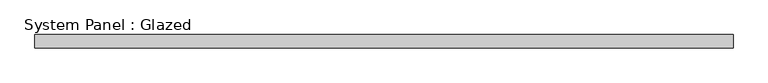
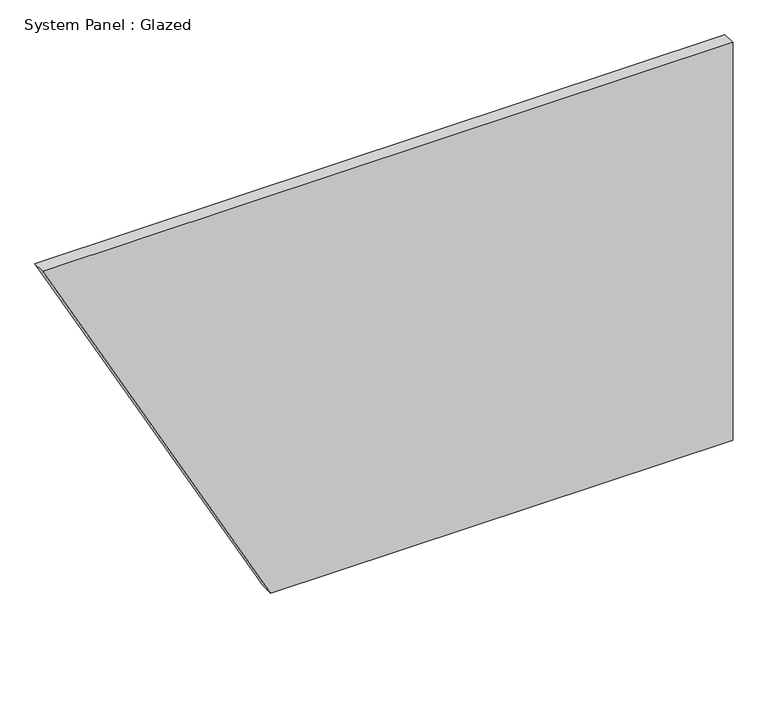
"""IFC4 building model written with IfcOpenShell, lengths in millimetres: plate geometry, System Panel : Glazed."""

import ifcopenshell
import ifcopenshell.guid

model = None  # the IFC model being written
_history = None  # IfcOwnerHistory: only IFC2X3 demands one
_inside = {}  # id of a spatial element -> (the spatial element, [elements in it])
_under = {}  # id of a project, library or spatial element -> (it, [spatial elements below it])
_declared = {}  # id of a project -> (the project, [libraries it declares])
_typed = {}  # id of a type object -> (the type object, [elements of that type])
_made_of = {}  # id of a material, layer set ... -> (it, [elements and type objects made of it])


def new_model(schema):
    """Start an empty IFC model of exactly this schema.

    Asked for "IFC4X3", IfcOpenShell would pick the latest addendum, in which some entities
    have other attributes; the version numbers below select the first issue.
    IFC2X3 requires an IfcOwnerHistory on every rooted entity: one is made here for all.
    """
    global model, _history
    if schema == "IFC4X3":
        model = ifcopenshell.file(schema_version=(4, 3, 0, 0))
    else:
        model = ifcopenshell.file(schema=schema)
    _inside.clear()
    _under.clear()
    _declared.clear()
    _typed.clear()
    _made_of.clear()
    _history = None
    if model.schema == "IFC2X3":
        org = make("IfcOrganization", Name="unknown")
        user = make(
            "IfcPersonAndOrganization",
            ThePerson=make("IfcPerson", FamilyName="unknown"),
            TheOrganization=org,
        )
        app = make(
            "IfcApplication",
            ApplicationDeveloper=org,
            Version="unknown",
            ApplicationFullName="unknown",
            ApplicationIdentifier="unknown",
        )
        _history = make(
            "IfcOwnerHistory",
            OwningUser=user,
            OwningApplication=app,
            ChangeAction="ADDED",
            CreationDate=0,
        )
    return model


def make(cls, **values):
    """One entity of the class cls with the attributes given. An attribute that is None is left unset."""
    return model.create_entity(
        cls, **{name: value for name, value in values.items() if value is not None}
    )


def rooted(cls, **values):
    """An entity with a GlobalId (a new one), such as an element, a storey or a relation."""
    return make(cls, GlobalId=ifcopenshell.guid.new(), OwnerHistory=_history, **values)


def si_unit(unit_type, name, prefix=None):
    """IfcSIUnit, for example si_unit("LENGTHUNIT", "METRE", prefix="MILLI")."""
    return make("IfcSIUnit", UnitType=unit_type, Prefix=prefix, Name=name)


def assignment(units):
    """IfcUnitAssignment: the units of a project."""
    return None if units is None else make("IfcUnitAssignment", Units=units)


def point(xyz):
    """IfcCartesianPoint."""
    return None if xyz is None else make("IfcCartesianPoint", Coordinates=xyz)


def direction(xyz):
    """IfcDirection."""
    return None if xyz is None else make("IfcDirection", DirectionRatios=xyz)


def frame(location, z_axis=None, x_axis=None):
    """IfcAxis2Placement3D, a coordinate frame: its origin and axes. An axis left out is left unset."""
    return make(
        "IfcAxis2Placement3D",
        Location=point(location),
        Axis=direction(z_axis),
        RefDirection=direction(x_axis),
    )


def origin():
    """The frame at (0, 0, 0) with its axes left unset."""
    return frame((0.0, 0.0, 0.0))


def place(relative_to, where):
    """IfcLocalPlacement: puts the frame where relative to a parent placement (None: the world)."""
    return make(
        "IfcLocalPlacement", PlacementRelTo=relative_to, RelativePlacement=where
    )


def context(
    kind, dimensions, precision=None, world=None, true_north=None, identifier=None
):
    """IfcGeometricRepresentationContext, for example the 3D "Model" context."""
    return make(
        "IfcGeometricRepresentationContext",
        ContextIdentifier=identifier,
        ContextType=kind,
        CoordinateSpaceDimension=dimensions,
        Precision=precision,
        WorldCoordinateSystem=world,
        TrueNorth=true_north,
    )


def project(units=None, contexts=None):
    """IfcProject with its units and contexts."""
    return rooted(
        "IfcProject",
        Name="project",
        RepresentationContexts=contexts,
        UnitsInContext=assignment(units),
    )


def spatial(cls, under=None, at=None, **own):
    """A site, building, storey or space (cls), placed at a placement, below another one or the project."""
    s = rooted(cls, ObjectPlacement=at, **own)
    if under is not None:
        _under.setdefault(under.id(), (under, []))[1].append(s)
    return s


def polyline(points):
    """IfcPolyline through the points."""
    return make("IfcPolyline", Points=[point(p) for p in points])


def outline(outer, holes=None, kind="AREA"):
    """IfcArbitraryClosedProfileDef: a profile drawn as a closed curve; with holes, ...WithVoids."""
    if holes is None:
        return make("IfcArbitraryClosedProfileDef", ProfileType=kind, OuterCurve=outer)
    return make(
        "IfcArbitraryProfileDefWithVoids",
        ProfileType=kind,
        OuterCurve=outer,
        InnerCurves=holes,
    )


def extrude(swept, where, along, depth):
    """IfcExtrudedAreaSolid: the profile swept, set in the frame where, extruded along a direction by depth."""
    return make(
        "IfcExtrudedAreaSolid",
        SweptArea=swept,
        Position=where,
        ExtrudedDirection=direction(along),
        Depth=depth,
    )


def shape(context_of_items, identifier, shape_type, items):
    """IfcShapeRepresentation: the items that make up one representation, for example the "Body"."""
    return make(
        "IfcShapeRepresentation",
        ContextOfItems=context_of_items,
        RepresentationIdentifier=identifier,
        RepresentationType=shape_type,
        Items=items,
    )


def source(mapping_origin, context_of_items, identifier, shape_type, items):
    """IfcRepresentationMap: a shape defined once, which mapped items show again and again."""
    return make(
        "IfcRepresentationMap",
        MappingOrigin=mapping_origin,
        MappedRepresentation=shape(context_of_items, identifier, shape_type, items),
    )


def transform(
    local_origin,
    x_axis=None,
    y_axis=None,
    z_axis=None,
    scale=None,
    scale2=None,
    scale3=None,
    uniform=True,
):
    """IfcCartesianTransformationOperator3D, or its non-uniform kind. x_axis, y_axis, z_axis: its Axis1, 2, 3."""
    if uniform:
        return make(
            "IfcCartesianTransformationOperator3D",
            Axis1=direction(x_axis),
            Axis2=direction(y_axis),
            LocalOrigin=point(local_origin),
            Scale=scale,
            Axis3=direction(z_axis),
        )
    return make(
        "IfcCartesianTransformationOperator3DnonUniform",
        Axis1=direction(x_axis),
        Axis2=direction(y_axis),
        LocalOrigin=point(local_origin),
        Scale=scale,
        Axis3=direction(z_axis),
        Scale2=scale2,
        Scale3=scale3,
    )


def mapped(mapping_source, mapping_target):
    """IfcMappedItem: shows the shape of a source again, moved by a transform."""
    return make(
        "IfcMappedItem", MappingSource=mapping_source, MappingTarget=mapping_target
    )


def made_of(thing, what):
    """Note that an element or type object is made of a material, layer set ...; save() writes the relation."""
    if what is not None:
        _made_of.setdefault(what.id(), (what, []))[1].append(thing)
    return thing


def element(
    cls,
    number,
    at=None,
    inside=None,
    cuts=None,
    type_object=None,
    material=None,
    context=None,
    identifier="Body",
    shape_type=None,
    held_by="IfcProductDefinitionShape",
    body=None,
    shapes=None,
    **own,
):
    """One element of the class cls, such as IfcWall. Its Tag is "e" and its number.

    at: its placement. inside: the storey or other place that contains it. cuts: it is an
    opening in that element (IfcRelVoidsElement). A single representation is given by context,
    identifier, shape_type and body (its items); several are given by shapes. held_by: the class
    of the entity that holds the representations. save() writes the other relations.
    """
    e = rooted(cls, Tag="e%d" % number, ObjectPlacement=at, **own)
    if body is not None:
        shapes = [shape(context, identifier, shape_type, body)]
    if shapes is not None:
        e.Representation = make(held_by, Representations=shapes)
    if inside is not None:
        _inside.setdefault(inside.id(), (inside, []))[1].append(e)
    if cuts is not None:
        rooted(
            "IfcRelVoidsElement", RelatingBuildingElement=cuts, RelatedOpeningElement=e
        )
    if type_object is not None:
        _typed.setdefault(type_object.id(), (type_object, []))[1].append(e)
    return made_of(e, material)


def aggregate(whole, parts):
    """IfcRelAggregates: a whole, such as a stair, and the parts it consists of."""
    return rooted("IfcRelAggregates", RelatingObject=whole, RelatedObjects=parts)


def save(model, path):
    """Write the relations noted so far, then the file.

    IfcRelAggregates (storeys below a building ...), IfcRelContainedInSpatialStructure (elements
    in a storey), IfcRelDefinesByType, IfcRelAssociatesMaterial and IfcRelDeclares: one each for
    every whole, place, type object, material and project.
    """
    for whole, parts in _under.values():
        aggregate(whole, parts)
    for where, things in _inside.values():
        rooted(
            "IfcRelContainedInSpatialStructure",
            RelatedElements=things,
            RelatingStructure=where,
        )
    for kind, things in _typed.values():
        rooted("IfcRelDefinesByType", RelatedObjects=things, RelatingType=kind)
    for what, things in _made_of.values():
        rooted("IfcRelAssociatesMaterial", RelatedObjects=things, RelatingMaterial=what)
    for by, libraries in _declared.values():
        rooted("IfcRelDeclares", RelatingContext=by, RelatedDefinitions=libraries)
    model.write(path)


def system_panel_glazed_6067745a(model_context):
    return source(origin(), model_context, "Body", "SweptSolid", [
        extrude(outline(polyline([(0.0, -222.1747117), (0.0, 655.2072528), (798.0, 655.2072528), (798.0, -655.2072528), (0.0, -222.1747117)])), frame((0.0, -12.5, 0.0), z_axis=(0.0, 1.0, 0.0), x_axis=(0.0, 0.0, 1.0)), (0.0, 0.0, 1.0), 25.0),
    ])


if __name__ == "__main__":
    model = new_model("IFC4")
    model_context = context("Model", 3, world=origin())
    ifc_project = project(units=[si_unit("LENGTHUNIT", "METRE", prefix="MILLI")], contexts=[model_context])
    site = spatial("IfcSite", under=ifc_project)
    building = spatial("IfcBuilding", under=site)
    placement = place(None, origin())
    system_panel_glazed_shape = system_panel_glazed_6067745a(model_context)
    element("IfcPlate", 1, ObjectType="System Panel : Glazed", at=placement, inside=building, context=model_context, shape_type="MappedRepresentation", body=[
        mapped(system_panel_glazed_shape, transform((0.0, 0.0, 0.0), x_axis=(1.0, 0.0, 0.0), y_axis=(0.0, 1.0, 0.0), z_axis=(0.0, 0.0, 1.0))),
    ])
    save(model, "model.ifc")
